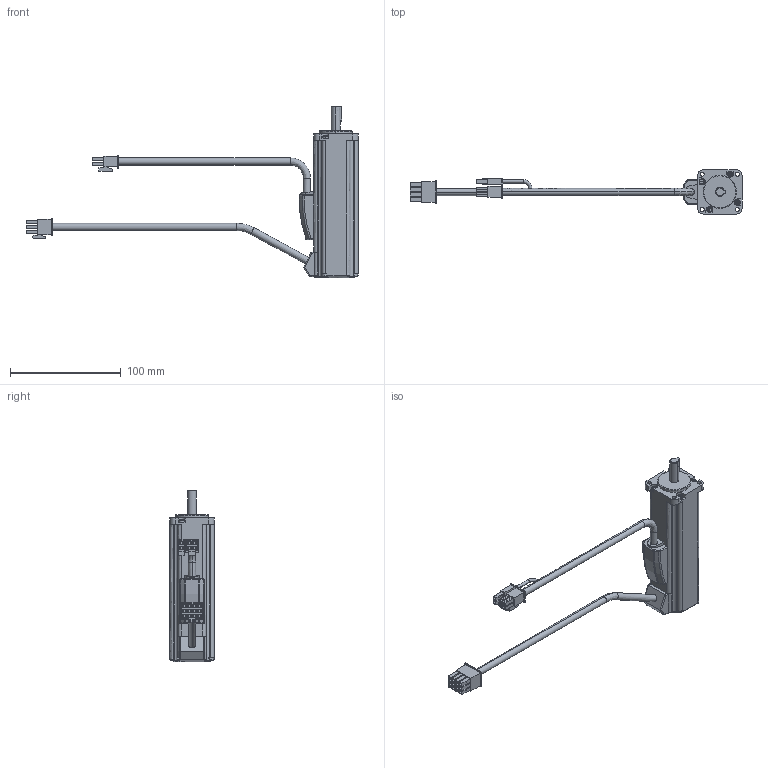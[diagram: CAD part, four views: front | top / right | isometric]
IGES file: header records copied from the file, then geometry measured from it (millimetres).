
Start section:  PTC IGES file: 10001005_rsmz-01ba_brake.igs
Global section: file name: 10001005_rsmz-01ba_brake.igs; native system: Pro/ENGINEER by Parametric Technology Corporation; preprocessor: 2004440; author: Administrator; organization: Unknown; date: 070829.201138; units: millimetre
Bounding box: 299.76 x 40 x 155 mm (x, y, z)
Volume: 217083.3 mm3; surface area: 41823.7 mm2
Topology: 1 solids, 1 shells, 529 faces, 1326 edges, 861 vertices
Faces by surface type: bspline 379, revolution 150
